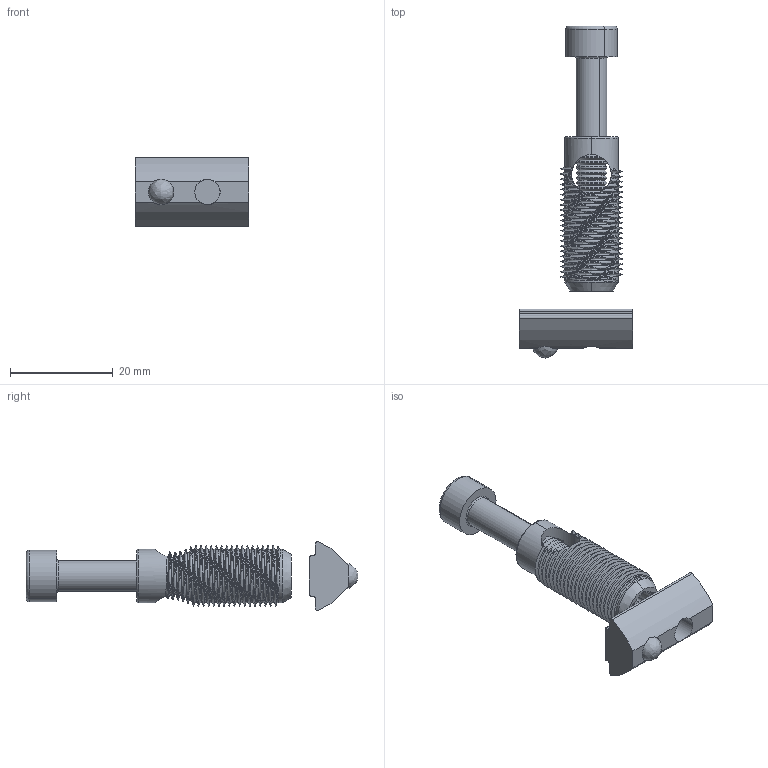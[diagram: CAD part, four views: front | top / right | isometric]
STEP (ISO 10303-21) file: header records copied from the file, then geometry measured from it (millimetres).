
FILE_DESCRIPTION (( 'STEP AP203' ), '1' );
FILE_NAME ('390012_Eindrehverbinder-Satz 8, einseitig.step', '2022-04-14T08:05:16', ( '' ), ( '' ), 'SwSTEP 2.0', 'SolidWorks 2021', '' );
FILE_SCHEMA (( 'CONFIG_CONTROL_DESIGN' ));
Length unit declared in the file: millimetre
Products named in the file (4): DIN 912 M6 x 40 --- 24S_DIN 912 M6 x 40 --- 24S; 390012 Hülse; 355040 Nutenstein 8 M6 einschwenkbar mit Kugel und Steg; 390012_Eindrehverbinder-Satz 8, einseitig
Assembly tree (3 placements, depth 2):
  390012_Eindrehverbinder-Satz 8, einseitig
    390012 Hülse
    DIN 912 M6 x 40 --- 24S_DIN 912 M6 x 40 --- 24S
    355040 Nutenstein 8 M6 einschwenkbar mit Kugel und Steg
Bounding box: 22 x 64.5 x 13.47 mm (x, y, z)
Volume: 4342.4 mm3; surface area: 4835.6 mm2
Topology: 3 solids, 4 shells, 365 faces, 985 edges, 625 vertices
Faces by surface type: cylinder 133, cone 123, plane 52, bspline 51, torus 6
Entity records: 95298 total; most frequent: CARTESIAN_POINT 86205, ORIENTED_EDGE 1966, DIRECTION 1696, EDGE_CURVE 983, AXIS2_PLACEMENT_3D 694, VERTEX_POINT 625, CIRCLE 374, EDGE_LOOP 372
